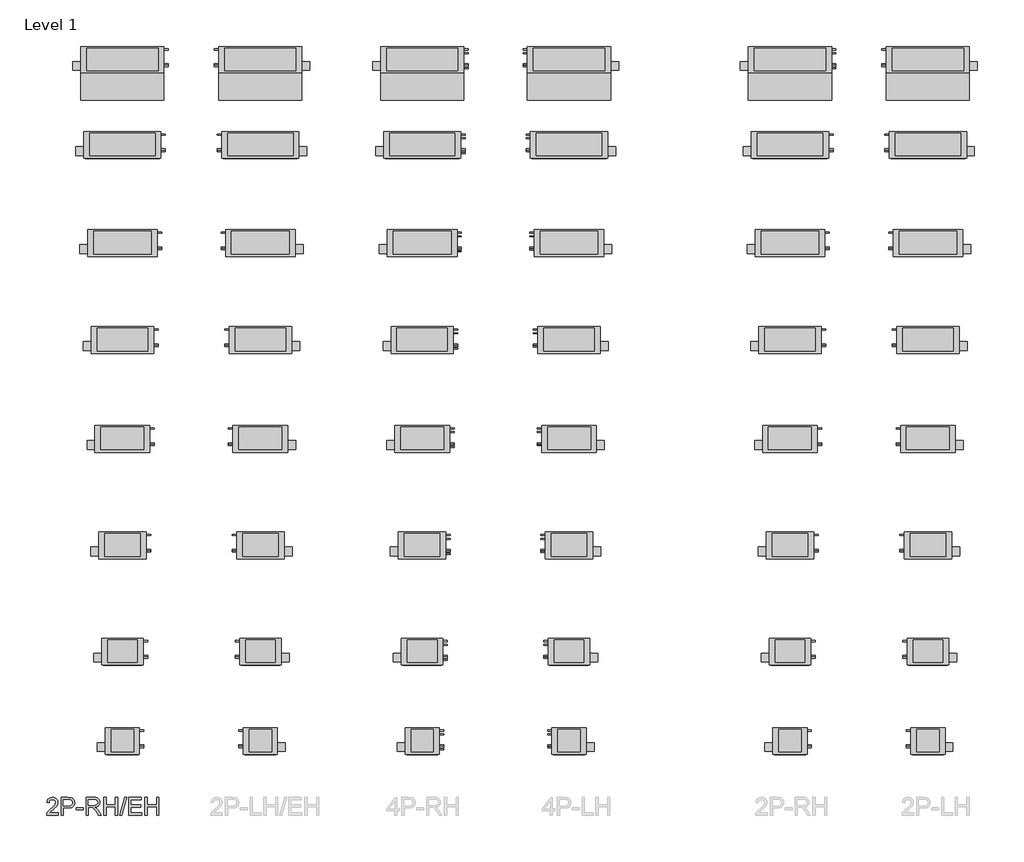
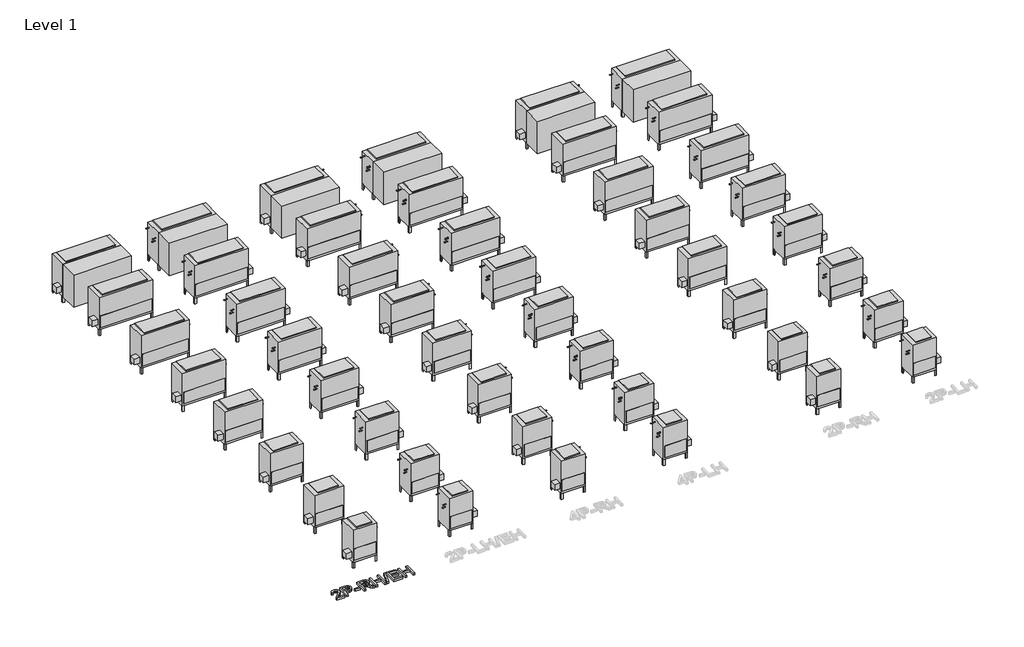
# One storey, part 1 of 2: 49 proxies.
"""IFC4 building model written with IfcOpenShell, lengths in millimetres."""

from ifc_helpers import new_model, si_unit, origin, origin_with_axes, place, context, project, spatial, polyline, outline, extrude, transform, mapped, element, save
from components import mechanical_equipment_1c3f9d2c, mechanical_equipment_e8f2433d, mechanical_equipment_6d55c416, mechanical_equipment_35031151, mechanical_equipment_93967929, mechanical_equipment_fce51667, mechanical_equipment_43bb50d7, mechanical_equipment_c5ebb9ed, mechanical_equipment_55d8b92a, mechanical_equipment_40b3ffb7, mechanical_equipment_580314c3, mechanical_equipment_f7157ef1, mechanical_equipment_43910603, mechanical_equipment_77015d4e, mechanical_equipment_1a85bbc4, mechanical_equipment_9d42d5b1, mechanical_equipment_6a2da01b, mechanical_equipment_de64c2ab, mechanical_equipment_23f30b28, mechanical_equipment_c005a9e1, mechanical_equipment_52866f31, mechanical_equipment_7676ee39, mechanical_equipment_11728c12, mechanical_equipment_4ca5ce02, mechanical_equipment_dd7bbd71, mechanical_equipment_e4368f68, mechanical_equipment_4e46873f, mechanical_equipment_3a64e9f5, mechanical_equipment_9b7b7e86, mechanical_equipment_b6b0d0cb, mechanical_equipment_683aed5f, mechanical_equipment_18172840

model = new_model("IFC4")

# Units and contexts
model_context = context("Model", 3, world=origin())
ifc_project = project(units=[si_unit("LENGTHUNIT", "METRE", prefix="MILLI")], contexts=[model_context])

# Site, building, storey
site = spatial("IfcSite", under=ifc_project)
building = spatial("IfcBuilding", under=site)
storey = spatial("IfcBuildingStorey", under=building, Name="Level 1", Elevation=0.0)

# Proxies
placement = place(None, origin())
mechanical_equipment_shape = mechanical_equipment_1c3f9d2c(model_context)
element("IfcBuildingElementProxy", 1, Name="Concealed_High_Capacity_Vertical_Fan_Coil_Unit_-_42DDA_-_CARRIER_-_2-Pipe_Cool_LH_2022 : Size 18 - 277v/60Hz/1Ph - 6 Row 12.0kW", ObjectType="Concealed_High_Capacity_Vertical_Fan_Coil_Unit_-_42DDA_-_CARRIER_-_2-Pipe_Cool_LH_2022 : Size 18 - 277v/60Hz/1Ph - 6 Row 12.0kW", at=placement, inside=storey, context=model_context, shape_type="MappedRepresentation", body=[
    mapped(mechanical_equipment_shape, transform((-10085.566512, 870.7442724, 0.0), x_axis=(1.0, 0.0, 0.0), y_axis=(0.0, 1.0, 0.0), z_axis=(0.0, 0.0, 1.0))),
])
mechanical_equipment_2_shape = mechanical_equipment_e8f2433d(model_context)
element("IfcBuildingElementProxy", 2, Name="Concealed_High_Capacity_Vertical_Fan_Coil_Unit_-_42DDA_-_CARRIER_-_2-Pipe_Cool_LH_2022 : Size 16 - 277v/60Hz/1Ph - 6 Row 12.0kW", ObjectType="Concealed_High_Capacity_Vertical_Fan_Coil_Unit_-_42DDA_-_CARRIER_-_2-Pipe_Cool_LH_2022 : Size 16 - 277v/60Hz/1Ph - 6 Row 12.0kW", at=placement, inside=storey, context=model_context, shape_type="MappedRepresentation", body=[
    mapped(mechanical_equipment_2_shape, transform((-10085.566512, -811.0930206, 0.0), x_axis=(1.0, 0.0, 0.0), y_axis=(0.0, 1.0, 0.0), z_axis=(0.0, 0.0, 1.0))),
])
mechanical_equipment_3_shape = mechanical_equipment_6d55c416(model_context)
element("IfcBuildingElementProxy", 3, Name="Concealed_High_Capacity_Vertical_Fan_Coil_Unit_-_42DDA_-_CARRIER_-_2-Pipe_Cool_LH_2022 : Size 14 - 277v/60Hz/1Ph - 6 Row 10.0kW", ObjectType="Concealed_High_Capacity_Vertical_Fan_Coil_Unit_-_42DDA_-_CARRIER_-_2-Pipe_Cool_LH_2022 : Size 14 - 277v/60Hz/1Ph - 6 Row 10.0kW", at=placement, inside=storey, context=model_context, shape_type="MappedRepresentation", body=[
    mapped(mechanical_equipment_3_shape, transform((-10085.566512, -2472.4201026, 0.0), x_axis=(1.0, 0.0, 0.0), y_axis=(0.0, 1.0, 0.0), z_axis=(0.0, 0.0, 1.0))),
])
mechanical_equipment_4_shape = mechanical_equipment_35031151(model_context)
element("IfcBuildingElementProxy", 4, Name="Concealed_High_Capacity_Vertical_Fan_Coil_Unit_-_42DDA_-_CARRIER_-_2-Pipe_Cool_LH_2022 : Size 12 - 277v/60Hz/1Ph - 6 Row 9.0kW", ObjectType="Concealed_High_Capacity_Vertical_Fan_Coil_Unit_-_42DDA_-_CARRIER_-_2-Pipe_Cool_LH_2022 : Size 12 - 277v/60Hz/1Ph - 6 Row 9.0kW", at=placement, inside=storey, context=model_context, shape_type="MappedRepresentation", body=[
    mapped(mechanical_equipment_4_shape, transform((-10085.566512, -4164.512501, 0.0), x_axis=(1.0, 0.0, 0.0), y_axis=(0.0, 1.0, 0.0), z_axis=(0.0, 0.0, 1.0))),
])
mechanical_equipment_5_shape = mechanical_equipment_93967929(model_context)
element("IfcBuildingElementProxy", 5, Name="Concealed_High_Capacity_Vertical_Fan_Coil_Unit_-_42DDA_-_CARRIER_-_2-Pipe_Cool_LH_2022 : Size 10 - 277v/60Hz/1Ph - 6 Row 7.0kW", ObjectType="Concealed_High_Capacity_Vertical_Fan_Coil_Unit_-_42DDA_-_CARRIER_-_2-Pipe_Cool_LH_2022 : Size 10 - 277v/60Hz/1Ph - 6 Row 7.0kW", at=placement, inside=storey, context=model_context, shape_type="MappedRepresentation", body=[
    mapped(mechanical_equipment_5_shape, transform((-10085.566512, -5991.5877247, 0.0), x_axis=(1.0, 0.0, 0.0), y_axis=(0.0, 1.0, 0.0), z_axis=(0.0, 0.0, 1.0))),
])
mechanical_equipment_6_shape = mechanical_equipment_fce51667(model_context)
element("IfcBuildingElementProxy", 6, Name="Concealed_High_Capacity_Vertical_Fan_Coil_Unit_-_42DDA_-_CARRIER_-_2-Pipe_Cool_LH_2022 : Size 08 - 277v/60Hz/1Ph - 6 Row 6.0kW", ObjectType="Concealed_High_Capacity_Vertical_Fan_Coil_Unit_-_42DDA_-_CARRIER_-_2-Pipe_Cool_LH_2022 : Size 08 - 277v/60Hz/1Ph - 6 Row 6.0kW", at=placement, inside=storey, context=model_context, shape_type="MappedRepresentation", body=[
    mapped(mechanical_equipment_6_shape, transform((-10085.566512, -7808.9462361, 0.0), x_axis=(1.0, 0.0, 0.0), y_axis=(0.0, 1.0, 0.0), z_axis=(0.0, 0.0, 1.0))),
])
mechanical_equipment_7_shape = mechanical_equipment_43bb50d7(model_context)
element("IfcBuildingElementProxy", 7, Name="Concealed_High_Capacity_Vertical_Fan_Coil_Unit_-_42DDA_-_CARRIER_-_2-Pipe_Cool_LH_2022 : Size 06 - 277v/60Hz/1Ph - 6 Row 4.0kW", ObjectType="Concealed_High_Capacity_Vertical_Fan_Coil_Unit_-_42DDA_-_CARRIER_-_2-Pipe_Cool_LH_2022 : Size 06 - 277v/60Hz/1Ph - 6 Row 4.0kW", at=placement, inside=storey, context=model_context, shape_type="MappedRepresentation", body=[
    mapped(mechanical_equipment_7_shape, transform((-10085.566512, -9341.4948315, 0.0), x_axis=(1.0, 0.0, 0.0), y_axis=(0.0, 1.0, 0.0), z_axis=(0.0, 0.0, 1.0))),
])
mechanical_equipment_8_shape = mechanical_equipment_c5ebb9ed(model_context)
element("IfcBuildingElementProxy", 8, Name="Concealed_High_Capacity_Vertical_Fan_Coil_Unit_-_42DDA_-_CARRIER_-_2-Pipe_Cool_RH_2022 : Size 18 - 277v/60Hz/1Ph - 6 Row 12.0kW", ObjectType="Concealed_High_Capacity_Vertical_Fan_Coil_Unit_-_42DDA_-_CARRIER_-_2-Pipe_Cool_RH_2022 : Size 18 - 277v/60Hz/1Ph - 6 Row 12.0kW", at=placement, inside=storey, context=model_context, shape_type="MappedRepresentation", body=[
    mapped(mechanical_equipment_8_shape, transform((-12447.766512, 870.7442724, 0.0), x_axis=(1.0, 0.0, 0.0), y_axis=(0.0, 1.0, 0.0), z_axis=(0.0, 0.0, 1.0))),
])
mechanical_equipment_9_shape = mechanical_equipment_55d8b92a(model_context)
element("IfcBuildingElementProxy", 9, Name="Concealed_High_Capacity_Vertical_Fan_Coil_Unit_-_42DDA_-_CARRIER_-_2-Pipe_Cool_RH_2022 : Size 16 - 277v/60Hz/1Ph - 6 Row 12.0kW", ObjectType="Concealed_High_Capacity_Vertical_Fan_Coil_Unit_-_42DDA_-_CARRIER_-_2-Pipe_Cool_RH_2022 : Size 16 - 277v/60Hz/1Ph - 6 Row 12.0kW", at=placement, inside=storey, context=model_context, shape_type="MappedRepresentation", body=[
    mapped(mechanical_equipment_9_shape, transform((-12447.766512, -811.0930206, 0.0), x_axis=(1.0, 0.0, 0.0), y_axis=(0.0, 1.0, 0.0), z_axis=(0.0, 0.0, 1.0))),
])
mechanical_equipment_10_shape = mechanical_equipment_40b3ffb7(model_context)
element("IfcBuildingElementProxy", 10, Name="Concealed_High_Capacity_Vertical_Fan_Coil_Unit_-_42DDA_-_CARRIER_-_2-Pipe_Cool_RH_2022 : Size 14 - 277v/60Hz/1Ph - 6 Row 10.0kW", ObjectType="Concealed_High_Capacity_Vertical_Fan_Coil_Unit_-_42DDA_-_CARRIER_-_2-Pipe_Cool_RH_2022 : Size 14 - 277v/60Hz/1Ph - 6 Row 10.0kW", at=placement, inside=storey, context=model_context, shape_type="MappedRepresentation", body=[
    mapped(mechanical_equipment_10_shape, transform((-12447.766512, -2472.4201026, 0.0), x_axis=(1.0, 0.0, 0.0), y_axis=(0.0, 1.0, 0.0), z_axis=(0.0, 0.0, 1.0))),
])
mechanical_equipment_11_shape = mechanical_equipment_580314c3(model_context)
element("IfcBuildingElementProxy", 11, Name="Concealed_High_Capacity_Vertical_Fan_Coil_Unit_-_42DDA_-_CARRIER_-_2-Pipe_Cool_RH_2022 : Size 12 - 277v/60Hz/1Ph - 6 Row 9.0kW", ObjectType="Concealed_High_Capacity_Vertical_Fan_Coil_Unit_-_42DDA_-_CARRIER_-_2-Pipe_Cool_RH_2022 : Size 12 - 277v/60Hz/1Ph - 6 Row 9.0kW", at=placement, inside=storey, context=model_context, shape_type="MappedRepresentation", body=[
    mapped(mechanical_equipment_11_shape, transform((-12447.766512, -4164.512501, 0.0), x_axis=(1.0, 0.0, 0.0), y_axis=(0.0, 1.0, 0.0), z_axis=(0.0, 0.0, 1.0))),
])
mechanical_equipment_12_shape = mechanical_equipment_f7157ef1(model_context)
element("IfcBuildingElementProxy", 12, Name="Concealed_High_Capacity_Vertical_Fan_Coil_Unit_-_42DDA_-_CARRIER_-_2-Pipe_Cool_RH_2022 : Size 10 - 277v/60Hz/1Ph - 6 Row 7.0kW", ObjectType="Concealed_High_Capacity_Vertical_Fan_Coil_Unit_-_42DDA_-_CARRIER_-_2-Pipe_Cool_RH_2022 : Size 10 - 277v/60Hz/1Ph - 6 Row 7.0kW", at=placement, inside=storey, context=model_context, shape_type="MappedRepresentation", body=[
    mapped(mechanical_equipment_12_shape, transform((-12447.766512, -5991.5877247, 0.0), x_axis=(1.0, 0.0, 0.0), y_axis=(0.0, 1.0, 0.0), z_axis=(0.0, 0.0, 1.0))),
])
mechanical_equipment_13_shape = mechanical_equipment_43910603(model_context)
element("IfcBuildingElementProxy", 13, Name="Concealed_High_Capacity_Vertical_Fan_Coil_Unit_-_42DDA_-_CARRIER_-_2-Pipe_Cool_RH_2022 : Size 08 - 277v/60Hz/1Ph - 6 Row 6.0kW", ObjectType="Concealed_High_Capacity_Vertical_Fan_Coil_Unit_-_42DDA_-_CARRIER_-_2-Pipe_Cool_RH_2022 : Size 08 - 277v/60Hz/1Ph - 6 Row 6.0kW", at=placement, inside=storey, context=model_context, shape_type="MappedRepresentation", body=[
    mapped(mechanical_equipment_13_shape, transform((-12447.766512, -7808.9462361, 0.0), x_axis=(1.0, 0.0, 0.0), y_axis=(0.0, 1.0, 0.0), z_axis=(0.0, 0.0, 1.0))),
])
mechanical_equipment_14_shape = mechanical_equipment_77015d4e(model_context)
element("IfcBuildingElementProxy", 14, Name="Concealed_High_Capacity_Vertical_Fan_Coil_Unit_-_42DDA_-_CARRIER_-_2-Pipe_Cool_RH_2022 : Size 06 - 277v/60Hz/1Ph - 6 Row 4.0kW", ObjectType="Concealed_High_Capacity_Vertical_Fan_Coil_Unit_-_42DDA_-_CARRIER_-_2-Pipe_Cool_RH_2022 : Size 06 - 277v/60Hz/1Ph - 6 Row 4.0kW", at=placement, inside=storey, context=model_context, shape_type="MappedRepresentation", body=[
    mapped(mechanical_equipment_14_shape, transform((-12447.766512, -9341.4948315, 0.0), x_axis=(1.0, 0.0, 0.0), y_axis=(0.0, 1.0, 0.0), z_axis=(0.0, 0.0, 1.0))),
])
mechanical_equipment_15_shape = mechanical_equipment_1a85bbc4(model_context)
element("IfcBuildingElementProxy", 15, Name="Concealed_High_Capacity_Vertical_Fan_Coil_Unit_-_42DDA_-_CARRIER_-_4-Pipe_LH_2022 : Size 18 - 277v/60Hz/1Ph - 4/2 Coil", ObjectType="Concealed_High_Capacity_Vertical_Fan_Coil_Unit_-_42DDA_-_CARRIER_-_4-Pipe_LH_2022 : Size 18 - 277v/60Hz/1Ph - 4/2 Coil", at=placement, inside=storey, context=model_context, shape_type="MappedRepresentation", body=[
    mapped(mechanical_equipment_15_shape, transform((-16231.0021227, 870.7442724, 0.0), x_axis=(1.0, 0.0, 0.0), y_axis=(0.0, 1.0, 0.0), z_axis=(0.0, 0.0, 1.0))),
])
mechanical_equipment_16_shape = mechanical_equipment_9d42d5b1(model_context)
element("IfcBuildingElementProxy", 16, Name="Concealed_High_Capacity_Vertical_Fan_Coil_Unit_-_42DDA_-_CARRIER_-_4-Pipe_LH_2022 : Size 16 - 277v/60Hz/1Ph - 4/2 Coil", ObjectType="Concealed_High_Capacity_Vertical_Fan_Coil_Unit_-_42DDA_-_CARRIER_-_4-Pipe_LH_2022 : Size 16 - 277v/60Hz/1Ph - 4/2 Coil", at=placement, inside=storey, context=model_context, shape_type="MappedRepresentation", body=[
    mapped(mechanical_equipment_16_shape, transform((-16231.0021227, -811.0930206, 0.0), x_axis=(1.0, 0.0, 0.0), y_axis=(0.0, 1.0, 0.0), z_axis=(0.0, 0.0, 1.0))),
])
mechanical_equipment_17_shape = mechanical_equipment_6a2da01b(model_context)
element("IfcBuildingElementProxy", 17, Name="Concealed_High_Capacity_Vertical_Fan_Coil_Unit_-_42DDA_-_CARRIER_-_4-Pipe_LH_2022 : Size 14 - 277v/60Hz/1Ph - 4/2 Coil", ObjectType="Concealed_High_Capacity_Vertical_Fan_Coil_Unit_-_42DDA_-_CARRIER_-_4-Pipe_LH_2022 : Size 14 - 277v/60Hz/1Ph - 4/2 Coil", at=placement, inside=storey, context=model_context, shape_type="MappedRepresentation", body=[
    mapped(mechanical_equipment_17_shape, transform((-16231.0021227, -2472.4201026, 0.0), x_axis=(1.0, 0.0, 0.0), y_axis=(0.0, 1.0, 0.0), z_axis=(0.0, 0.0, 1.0))),
])
mechanical_equipment_18_shape = mechanical_equipment_de64c2ab(model_context)
element("IfcBuildingElementProxy", 18, Name="Concealed_High_Capacity_Vertical_Fan_Coil_Unit_-_42DDA_-_CARRIER_-_4-Pipe_LH_2022 : Size 12 - 277v/60Hz/1Ph - 4/2 Coil", ObjectType="Concealed_High_Capacity_Vertical_Fan_Coil_Unit_-_42DDA_-_CARRIER_-_4-Pipe_LH_2022 : Size 12 - 277v/60Hz/1Ph - 4/2 Coil", at=placement, inside=storey, context=model_context, shape_type="MappedRepresentation", body=[
    mapped(mechanical_equipment_18_shape, transform((-16231.0021227, -4164.512501, 0.0), x_axis=(1.0, 0.0, 0.0), y_axis=(0.0, 1.0, 0.0), z_axis=(0.0, 0.0, 1.0))),
])
mechanical_equipment_19_shape = mechanical_equipment_23f30b28(model_context)
element("IfcBuildingElementProxy", 19, Name="Concealed_High_Capacity_Vertical_Fan_Coil_Unit_-_42DDA_-_CARRIER_-_4-Pipe_LH_2022 : Size 10 - 277v/60Hz/1Ph - 4/2 Coil", ObjectType="Concealed_High_Capacity_Vertical_Fan_Coil_Unit_-_42DDA_-_CARRIER_-_4-Pipe_LH_2022 : Size 10 - 277v/60Hz/1Ph - 4/2 Coil", at=placement, inside=storey, context=model_context, shape_type="MappedRepresentation", body=[
    mapped(mechanical_equipment_19_shape, transform((-16231.0021227, -5991.5877247, 0.0), x_axis=(1.0, 0.0, 0.0), y_axis=(0.0, 1.0, 0.0), z_axis=(0.0, 0.0, 1.0))),
])
mechanical_equipment_20_shape = mechanical_equipment_c005a9e1(model_context)
element("IfcBuildingElementProxy", 20, Name="Concealed_High_Capacity_Vertical_Fan_Coil_Unit_-_42DDA_-_CARRIER_-_4-Pipe_LH_2022 : Size 08 - 277v/60Hz/1Ph - 4/2 Coil", ObjectType="Concealed_High_Capacity_Vertical_Fan_Coil_Unit_-_42DDA_-_CARRIER_-_4-Pipe_LH_2022 : Size 08 - 277v/60Hz/1Ph - 4/2 Coil", at=placement, inside=storey, context=model_context, shape_type="MappedRepresentation", body=[
    mapped(mechanical_equipment_20_shape, transform((-16231.0021227, -7808.9462361, 0.0), x_axis=(1.0, 0.0, 0.0), y_axis=(0.0, 1.0, 0.0), z_axis=(0.0, 0.0, 1.0))),
])
mechanical_equipment_21_shape = mechanical_equipment_52866f31(model_context)
element("IfcBuildingElementProxy", 21, Name="Concealed_High_Capacity_Vertical_Fan_Coil_Unit_-_42DDA_-_CARRIER_-_4-Pipe_LH_2022 : Size 06 - 277v/60Hz/1Ph - 4/2 Coil", ObjectType="Concealed_High_Capacity_Vertical_Fan_Coil_Unit_-_42DDA_-_CARRIER_-_4-Pipe_LH_2022 : Size 06 - 277v/60Hz/1Ph - 4/2 Coil", at=placement, inside=storey, context=model_context, shape_type="MappedRepresentation", body=[
    mapped(mechanical_equipment_21_shape, transform((-16231.0021227, -9341.4948315, 0.0), x_axis=(1.0, 0.0, 0.0), y_axis=(0.0, 1.0, 0.0), z_axis=(0.0, 0.0, 1.0))),
])
mechanical_equipment_22_shape = mechanical_equipment_7676ee39(model_context)
element("IfcBuildingElementProxy", 22, Name="Concealed_High_Capacity_Vertical_Fan_Coil_Unit_-_42DDA_-_CARRIER_-_4-Pipe_RH_2022 : Size 18 - 277v/60Hz/1Ph - 4/2 Coil", ObjectType="Concealed_High_Capacity_Vertical_Fan_Coil_Unit_-_42DDA_-_CARRIER_-_4-Pipe_RH_2022 : Size 18 - 277v/60Hz/1Ph - 4/2 Coil", at=placement, inside=storey, context=model_context, shape_type="MappedRepresentation", body=[
    mapped(mechanical_equipment_22_shape, transform((-18745.6021227, 870.7442724, 0.0), x_axis=(1.0, 0.0, 0.0), y_axis=(0.0, 1.0, 0.0), z_axis=(0.0, 0.0, 1.0))),
])
mechanical_equipment_23_shape = mechanical_equipment_11728c12(model_context)
element("IfcBuildingElementProxy", 23, Name="Concealed_High_Capacity_Vertical_Fan_Coil_Unit_-_42DDA_-_CARRIER_-_4-Pipe_RH_2022 : Size 16 - 277v/60Hz/1Ph - 4/2 Coil", ObjectType="Concealed_High_Capacity_Vertical_Fan_Coil_Unit_-_42DDA_-_CARRIER_-_4-Pipe_RH_2022 : Size 16 - 277v/60Hz/1Ph - 4/2 Coil", at=placement, inside=storey, context=model_context, shape_type="MappedRepresentation", body=[
    mapped(mechanical_equipment_23_shape, transform((-18745.6021227, -811.0930206, 0.0), x_axis=(1.0, 0.0, 0.0), y_axis=(0.0, 1.0, 0.0), z_axis=(0.0, 0.0, 1.0))),
])
mechanical_equipment_24_shape = mechanical_equipment_4ca5ce02(model_context)
element("IfcBuildingElementProxy", 24, Name="Concealed_High_Capacity_Vertical_Fan_Coil_Unit_-_42DDA_-_CARRIER_-_4-Pipe_RH_2022 : Size 14 - 277v/60Hz/1Ph - 4/2 Coil", ObjectType="Concealed_High_Capacity_Vertical_Fan_Coil_Unit_-_42DDA_-_CARRIER_-_4-Pipe_RH_2022 : Size 14 - 277v/60Hz/1Ph - 4/2 Coil", at=placement, inside=storey, context=model_context, shape_type="MappedRepresentation", body=[
    mapped(mechanical_equipment_24_shape, transform((-18745.6021227, -2472.4201026, 0.0), x_axis=(1.0, 0.0, 0.0), y_axis=(0.0, 1.0, 0.0), z_axis=(0.0, 0.0, 1.0))),
])
mechanical_equipment_25_shape = mechanical_equipment_dd7bbd71(model_context)
element("IfcBuildingElementProxy", 25, Name="Concealed_High_Capacity_Vertical_Fan_Coil_Unit_-_42DDA_-_CARRIER_-_4-Pipe_RH_2022 : Size 12 - 277v/60Hz/1Ph - 4/2 Coil", ObjectType="Concealed_High_Capacity_Vertical_Fan_Coil_Unit_-_42DDA_-_CARRIER_-_4-Pipe_RH_2022 : Size 12 - 277v/60Hz/1Ph - 4/2 Coil", at=placement, inside=storey, context=model_context, shape_type="MappedRepresentation", body=[
    mapped(mechanical_equipment_25_shape, transform((-18745.6021227, -4164.512501, 0.0), x_axis=(1.0, 0.0, 0.0), y_axis=(0.0, 1.0, 0.0), z_axis=(0.0, 0.0, 1.0))),
])
mechanical_equipment_26_shape = mechanical_equipment_e4368f68(model_context)
element("IfcBuildingElementProxy", 26, Name="Concealed_High_Capacity_Vertical_Fan_Coil_Unit_-_42DDA_-_CARRIER_-_4-Pipe_RH_2022 : Size 10 - 277v/60Hz/1Ph - 4/2 Coil", ObjectType="Concealed_High_Capacity_Vertical_Fan_Coil_Unit_-_42DDA_-_CARRIER_-_4-Pipe_RH_2022 : Size 10 - 277v/60Hz/1Ph - 4/2 Coil", at=placement, inside=storey, context=model_context, shape_type="MappedRepresentation", body=[
    mapped(mechanical_equipment_26_shape, transform((-18745.6021227, -5991.5877247, 0.0), x_axis=(1.0, 0.0, 0.0), y_axis=(0.0, 1.0, 0.0), z_axis=(0.0, 0.0, 1.0))),
])
mechanical_equipment_27_shape = mechanical_equipment_4e46873f(model_context)
element("IfcBuildingElementProxy", 27, Name="Concealed_High_Capacity_Vertical_Fan_Coil_Unit_-_42DDA_-_CARRIER_-_4-Pipe_RH_2022 : Size 08 - 277v/60Hz/1Ph - 4/2 Coil", ObjectType="Concealed_High_Capacity_Vertical_Fan_Coil_Unit_-_42DDA_-_CARRIER_-_4-Pipe_RH_2022 : Size 08 - 277v/60Hz/1Ph - 4/2 Coil", at=placement, inside=storey, context=model_context, shape_type="MappedRepresentation", body=[
    mapped(mechanical_equipment_27_shape, transform((-18745.6021227, -7808.9462361, 0.0), x_axis=(1.0, 0.0, 0.0), y_axis=(0.0, 1.0, 0.0), z_axis=(0.0, 0.0, 1.0))),
])
mechanical_equipment_28_shape = mechanical_equipment_3a64e9f5(model_context)
element("IfcBuildingElementProxy", 28, Name="Concealed_High_Capacity_Vertical_Fan_Coil_Unit_-_42DDA_-_CARRIER_-_4-Pipe_RH_2022 : Size 06 - 277v/60Hz/1Ph - 4/2 Coil", ObjectType="Concealed_High_Capacity_Vertical_Fan_Coil_Unit_-_42DDA_-_CARRIER_-_4-Pipe_RH_2022 : Size 06 - 277v/60Hz/1Ph - 4/2 Coil", at=placement, inside=storey, context=model_context, shape_type="MappedRepresentation", body=[
    mapped(mechanical_equipment_28_shape, transform((-18745.6021227, -9341.4948315, 0.0), x_axis=(1.0, 0.0, 0.0), y_axis=(0.0, 1.0, 0.0), z_axis=(0.0, 0.0, 1.0))),
])
mechanical_equipment_29_shape = mechanical_equipment_9b7b7e86(model_context)
element("IfcBuildingElementProxy", 29, Name="Concealed_High_Capacity_Vertical_Fan_Coil_Unit_-_42DDA_-_CARRIER_-_2-Pipe_Cool-EHeat_RH_2022 : Size 20 - 277v/60Hz/1Ph - 6 Row 14.0kW", ObjectType="Concealed_High_Capacity_Vertical_Fan_Coil_Unit_-_42DDA_-_CARRIER_-_2-Pipe_Cool-EHeat_RH_2022 : Size 20 - 277v/60Hz/1Ph - 6 Row 14.0kW", at=placement, inside=storey, context=model_context, shape_type="MappedRepresentation", body=[
    mapped(mechanical_equipment_29_shape, transform((-23877.766512, 2326.9692455, 0.0), x_axis=(1.0, 0.0, 0.0), y_axis=(0.0, 1.0, 0.0), z_axis=(0.0, 0.0, 1.0))),
])
mechanical_equipment_30_shape = mechanical_equipment_b6b0d0cb(model_context)
element("IfcBuildingElementProxy", 30, Name="Concealed_High_Capacity_Vertical_Fan_Coil_Unit_-_42DDA_-_CARRIER_-_4-Pipe_RH_2022 : Size 20 - 277v/60Hz/1Ph - 4/2 Coil", ObjectType="Concealed_High_Capacity_Vertical_Fan_Coil_Unit_-_42DDA_-_CARRIER_-_4-Pipe_RH_2022 : Size 20 - 277v/60Hz/1Ph - 4/2 Coil", at=placement, inside=storey, context=model_context, shape_type="MappedRepresentation", body=[
    mapped(mechanical_equipment_30_shape, transform((-18745.6021227, 2326.9692455, 0.0), x_axis=(1.0, 0.0, 0.0), y_axis=(0.0, 1.0, 0.0), z_axis=(0.0, 0.0, 1.0))),
])
element("IfcBuildingElementProxy", 31, Name="Concealed_High_Capacity_Vertical_Fan_Coil_Unit_-_42DDA_-_CARRIER_-_4-Pipe_RH_2022 : Size 20 - 277v/60Hz/1Ph - 4/2 Coil", ObjectType="Concealed_High_Capacity_Vertical_Fan_Coil_Unit_-_42DDA_-_CARRIER_-_4-Pipe_RH_2022 : Size 20 - 277v/60Hz/1Ph - 4/2 Coil", at=placement, inside=storey, context=model_context, shape_type="MappedRepresentation", body=[
    mapped(mechanical_equipment_30_shape, transform((-12447.766512, 2326.9692455, 0.0), x_axis=(1.0, 0.0, 0.0), y_axis=(0.0, 1.0, 0.0), z_axis=(0.0, 0.0, 1.0))),
])
mechanical_equipment_31_shape = mechanical_equipment_683aed5f(model_context)
element("IfcBuildingElementProxy", 32, Name="Concealed_High_Capacity_Vertical_Fan_Coil_Unit_-_42DDA_-_CARRIER_-_2-Pipe_Cool-EHeat_LH_2022 : Size 20 - 277v/60Hz/1Ph - 6 Row 14.0kW", ObjectType="Concealed_High_Capacity_Vertical_Fan_Coil_Unit_-_42DDA_-_CARRIER_-_2-Pipe_Cool-EHeat_LH_2022 : Size 20 - 277v/60Hz/1Ph - 6 Row 14.0kW", at=placement, inside=storey, context=model_context, shape_type="MappedRepresentation", body=[
    mapped(mechanical_equipment_31_shape, transform((-21515.566512, 2326.9692455, 0.0), x_axis=(1.0, 0.0, 0.0), y_axis=(0.0, 1.0, 0.0), z_axis=(0.0, 0.0, 1.0))),
])
mechanical_equipment_32_shape = mechanical_equipment_18172840(model_context)
element("IfcBuildingElementProxy", 33, Name="Concealed_High_Capacity_Vertical_Fan_Coil_Unit_-_42DDA_-_CARRIER_-_4-Pipe_LH_2022 : Size 20 - 277v/60Hz/1Ph - 4/2 Coil", ObjectType="Concealed_High_Capacity_Vertical_Fan_Coil_Unit_-_42DDA_-_CARRIER_-_4-Pipe_LH_2022 : Size 20 - 277v/60Hz/1Ph - 4/2 Coil", at=placement, inside=storey, context=model_context, shape_type="MappedRepresentation", body=[
    mapped(mechanical_equipment_32_shape, transform((-16231.0021227, 2326.9692455, 0.0), x_axis=(1.0, 0.0, 0.0), y_axis=(0.0, 1.0, 0.0), z_axis=(0.0, 0.0, 1.0))),
])
element("IfcBuildingElementProxy", 34, Name="Concealed_High_Capacity_Vertical_Fan_Coil_Unit_-_42DDA_-_CARRIER_-_2-Pipe_Cool_LH_2022 : Size 20 - 277v/60Hz/1Ph - 6 Row 14.0kW", ObjectType="Concealed_High_Capacity_Vertical_Fan_Coil_Unit_-_42DDA_-_CARRIER_-_2-Pipe_Cool_LH_2022 : Size 20 - 277v/60Hz/1Ph - 6 Row 14.0kW", at=placement, inside=storey, context=model_context, shape_type="MappedRepresentation", body=[
    mapped(mechanical_equipment_31_shape, transform((-10085.566512, 2326.9692455, 0.0), x_axis=(1.0, 0.0, 0.0), y_axis=(0.0, 1.0, 0.0), z_axis=(0.0, 0.0, 1.0))),
])
element("IfcBuildingElementProxy", 35, Name="Concealed_High_Capacity_Vertical_Fan_Coil_Unit_-_42DDA_-_CARRIER_-_2-Pipe_Cool-EHeat_LH_2022 : Size 18 - 277v/60Hz/1Ph - 6 Row 12.0kW", ObjectType="Concealed_High_Capacity_Vertical_Fan_Coil_Unit_-_42DDA_-_CARRIER_-_2-Pipe_Cool-EHeat_LH_2022 : Size 18 - 277v/60Hz/1Ph - 6 Row 12.0kW", at=placement, inside=storey, context=model_context, shape_type="MappedRepresentation", body=[
    mapped(mechanical_equipment_shape, transform((-21515.566512, 870.7442724, 0.0), x_axis=(1.0, 0.0, 0.0), y_axis=(0.0, 1.0, 0.0), z_axis=(0.0, 0.0, 1.0))),
])
element("IfcBuildingElementProxy", 36, Name="Concealed_High_Capacity_Vertical_Fan_Coil_Unit_-_42DDA_-_CARRIER_-_2-Pipe_Cool-EHeat_LH_2022 : Size 16 - 277v/60Hz/1Ph - 6 Row 12.0kW", ObjectType="Concealed_High_Capacity_Vertical_Fan_Coil_Unit_-_42DDA_-_CARRIER_-_2-Pipe_Cool-EHeat_LH_2022 : Size 16 - 277v/60Hz/1Ph - 6 Row 12.0kW", at=placement, inside=storey, context=model_context, shape_type="MappedRepresentation", body=[
    mapped(mechanical_equipment_2_shape, transform((-21515.566512, -811.0930206, 0.0), x_axis=(1.0, 0.0, 0.0), y_axis=(0.0, 1.0, 0.0), z_axis=(0.0, 0.0, 1.0))),
])
element("IfcBuildingElementProxy", 37, Name="Concealed_High_Capacity_Vertical_Fan_Coil_Unit_-_42DDA_-_CARRIER_-_2-Pipe_Cool-EHeat_LH_2022 : Size 14 - 277v/60Hz/1Ph - 6 Row 10.0kW", ObjectType="Concealed_High_Capacity_Vertical_Fan_Coil_Unit_-_42DDA_-_CARRIER_-_2-Pipe_Cool-EHeat_LH_2022 : Size 14 - 277v/60Hz/1Ph - 6 Row 10.0kW", at=placement, inside=storey, context=model_context, shape_type="MappedRepresentation", body=[
    mapped(mechanical_equipment_3_shape, transform((-21515.566512, -2472.4201026, 0.0), x_axis=(1.0, 0.0, 0.0), y_axis=(0.0, 1.0, 0.0), z_axis=(0.0, 0.0, 1.0))),
])
element("IfcBuildingElementProxy", 38, Name="Concealed_High_Capacity_Vertical_Fan_Coil_Unit_-_42DDA_-_CARRIER_-_2-Pipe_Cool-EHeat_LH_2022 : Size 12 - 277v/60Hz/1Ph - 6 Row 9.0kW", ObjectType="Concealed_High_Capacity_Vertical_Fan_Coil_Unit_-_42DDA_-_CARRIER_-_2-Pipe_Cool-EHeat_LH_2022 : Size 12 - 277v/60Hz/1Ph - 6 Row 9.0kW", at=placement, inside=storey, context=model_context, shape_type="MappedRepresentation", body=[
    mapped(mechanical_equipment_4_shape, transform((-21515.566512, -4164.512501, 0.0), x_axis=(1.0, 0.0, 0.0), y_axis=(0.0, 1.0, 0.0), z_axis=(0.0, 0.0, 1.0))),
])
element("IfcBuildingElementProxy", 39, Name="Concealed_High_Capacity_Vertical_Fan_Coil_Unit_-_42DDA_-_CARRIER_-_2-Pipe_Cool-EHeat_LH_2022 : Size 10 - 277v/60Hz/1Ph - 6 Row 7.0kW", ObjectType="Concealed_High_Capacity_Vertical_Fan_Coil_Unit_-_42DDA_-_CARRIER_-_2-Pipe_Cool-EHeat_LH_2022 : Size 10 - 277v/60Hz/1Ph - 6 Row 7.0kW", at=placement, inside=storey, context=model_context, shape_type="MappedRepresentation", body=[
    mapped(mechanical_equipment_5_shape, transform((-21515.566512, -5991.5877247, 0.0), x_axis=(1.0, 0.0, 0.0), y_axis=(0.0, 1.0, 0.0), z_axis=(0.0, 0.0, 1.0))),
])
element("IfcBuildingElementProxy", 40, Name="Concealed_High_Capacity_Vertical_Fan_Coil_Unit_-_42DDA_-_CARRIER_-_2-Pipe_Cool-EHeat_LH_2022 : Size 08 - 277v/60Hz/1Ph - 6 Row 6.0kW", ObjectType="Concealed_High_Capacity_Vertical_Fan_Coil_Unit_-_42DDA_-_CARRIER_-_2-Pipe_Cool-EHeat_LH_2022 : Size 08 - 277v/60Hz/1Ph - 6 Row 6.0kW", at=placement, inside=storey, context=model_context, shape_type="MappedRepresentation", body=[
    mapped(mechanical_equipment_6_shape, transform((-21515.566512, -7808.9462361, 0.0), x_axis=(1.0, 0.0, 0.0), y_axis=(0.0, 1.0, 0.0), z_axis=(0.0, 0.0, 1.0))),
])
element("IfcBuildingElementProxy", 41, Name="Concealed_High_Capacity_Vertical_Fan_Coil_Unit_-_42DDA_-_CARRIER_-_2-Pipe_Cool-EHeat_LH_2022 : Size 06 - 277v/60Hz/1Ph - 6 Row 4.0kW", ObjectType="Concealed_High_Capacity_Vertical_Fan_Coil_Unit_-_42DDA_-_CARRIER_-_2-Pipe_Cool-EHeat_LH_2022 : Size 06 - 277v/60Hz/1Ph - 6 Row 4.0kW", at=placement, inside=storey, context=model_context, shape_type="MappedRepresentation", body=[
    mapped(mechanical_equipment_7_shape, transform((-21515.566512, -9341.4948315, 0.0), x_axis=(1.0, 0.0, 0.0), y_axis=(0.0, 1.0, 0.0), z_axis=(0.0, 0.0, 1.0))),
])
element("IfcBuildingElementProxy", 42, Name="Concealed_High_Capacity_Vertical_Fan_Coil_Unit_-_42DDA_-_CARRIER_-_2-Pipe_Cool-EHeat_RH_2022 : Size 18 - 277v/60Hz/1Ph - 6 Row 12.0kW", ObjectType="Concealed_High_Capacity_Vertical_Fan_Coil_Unit_-_42DDA_-_CARRIER_-_2-Pipe_Cool-EHeat_RH_2022 : Size 18 - 277v/60Hz/1Ph - 6 Row 12.0kW", at=placement, inside=storey, context=model_context, shape_type="MappedRepresentation", body=[
    mapped(mechanical_equipment_8_shape, transform((-23877.766512, 870.7442724, 0.0), x_axis=(1.0, 0.0, 0.0), y_axis=(0.0, 1.0, 0.0), z_axis=(0.0, 0.0, 1.0))),
])
element("IfcBuildingElementProxy", 43, Name="Concealed_High_Capacity_Vertical_Fan_Coil_Unit_-_42DDA_-_CARRIER_-_2-Pipe_Cool-EHeat_RH_2022 : Size 16 - 277v/60Hz/1Ph - 6 Row 12.0kW", ObjectType="Concealed_High_Capacity_Vertical_Fan_Coil_Unit_-_42DDA_-_CARRIER_-_2-Pipe_Cool-EHeat_RH_2022 : Size 16 - 277v/60Hz/1Ph - 6 Row 12.0kW", at=placement, inside=storey, context=model_context, shape_type="MappedRepresentation", body=[
    mapped(mechanical_equipment_9_shape, transform((-23877.766512, -811.0930206, 0.0), x_axis=(1.0, 0.0, 0.0), y_axis=(0.0, 1.0, 0.0), z_axis=(0.0, 0.0, 1.0))),
])
element("IfcBuildingElementProxy", 44, Name="Concealed_High_Capacity_Vertical_Fan_Coil_Unit_-_42DDA_-_CARRIER_-_2-Pipe_Cool-EHeat_RH_2022 : Size 14 - 277v/60Hz/1Ph - 6 Row 10.0kW", ObjectType="Concealed_High_Capacity_Vertical_Fan_Coil_Unit_-_42DDA_-_CARRIER_-_2-Pipe_Cool-EHeat_RH_2022 : Size 14 - 277v/60Hz/1Ph - 6 Row 10.0kW", at=placement, inside=storey, context=model_context, shape_type="MappedRepresentation", body=[
    mapped(mechanical_equipment_10_shape, transform((-23877.766512, -2472.4201026, 0.0), x_axis=(1.0, 0.0, 0.0), y_axis=(0.0, 1.0, 0.0), z_axis=(0.0, 0.0, 1.0))),
])
element("IfcBuildingElementProxy", 45, Name="Concealed_High_Capacity_Vertical_Fan_Coil_Unit_-_42DDA_-_CARRIER_-_2-Pipe_Cool-EHeat_RH_2022 : Size 12 - 277v/60Hz/1Ph - 6 Row 9.0kW", ObjectType="Concealed_High_Capacity_Vertical_Fan_Coil_Unit_-_42DDA_-_CARRIER_-_2-Pipe_Cool-EHeat_RH_2022 : Size 12 - 277v/60Hz/1Ph - 6 Row 9.0kW", at=placement, inside=storey, context=model_context, shape_type="MappedRepresentation", body=[
    mapped(mechanical_equipment_11_shape, transform((-23877.766512, -4164.512501, 0.0), x_axis=(1.0, 0.0, 0.0), y_axis=(0.0, 1.0, 0.0), z_axis=(0.0, 0.0, 1.0))),
])
element("IfcBuildingElementProxy", 46, Name="Concealed_High_Capacity_Vertical_Fan_Coil_Unit_-_42DDA_-_CARRIER_-_2-Pipe_Cool-EHeat_RH_2022 : Size 10 - 277v/60Hz/1Ph - 6 Row 7.0kW", ObjectType="Concealed_High_Capacity_Vertical_Fan_Coil_Unit_-_42DDA_-_CARRIER_-_2-Pipe_Cool-EHeat_RH_2022 : Size 10 - 277v/60Hz/1Ph - 6 Row 7.0kW", at=placement, inside=storey, context=model_context, shape_type="MappedRepresentation", body=[
    mapped(mechanical_equipment_12_shape, transform((-23877.766512, -5991.5877247, 0.0), x_axis=(1.0, 0.0, 0.0), y_axis=(0.0, 1.0, 0.0), z_axis=(0.0, 0.0, 1.0))),
])
element("IfcBuildingElementProxy", 47, Name="Concealed_High_Capacity_Vertical_Fan_Coil_Unit_-_42DDA_-_CARRIER_-_2-Pipe_Cool-EHeat_RH_2022 : Size 08 - 277v/60Hz/1Ph - 6 Row 6.0kW", ObjectType="Concealed_High_Capacity_Vertical_Fan_Coil_Unit_-_42DDA_-_CARRIER_-_2-Pipe_Cool-EHeat_RH_2022 : Size 08 - 277v/60Hz/1Ph - 6 Row 6.0kW", at=placement, inside=storey, context=model_context, shape_type="MappedRepresentation", body=[
    mapped(mechanical_equipment_13_shape, transform((-23877.766512, -7808.9462361, 0.0), x_axis=(1.0, 0.0, 0.0), y_axis=(0.0, 1.0, 0.0), z_axis=(0.0, 0.0, 1.0))),
])
element("IfcBuildingElementProxy", 48, Name="Concealed_High_Capacity_Vertical_Fan_Coil_Unit_-_42DDA_-_CARRIER_-_2-Pipe_Cool-EHeat_RH_2022 : Size 06 - 277v/60Hz/1Ph - 6 Row 4.0kW", ObjectType="Concealed_High_Capacity_Vertical_Fan_Coil_Unit_-_42DDA_-_CARRIER_-_2-Pipe_Cool-EHeat_RH_2022 : Size 06 - 277v/60Hz/1Ph - 6 Row 4.0kW", at=placement, inside=storey, context=model_context, shape_type="MappedRepresentation", body=[
    mapped(mechanical_equipment_14_shape, transform((-23877.766512, -9341.4948315, 0.0), x_axis=(1.0, 0.0, 0.0), y_axis=(0.0, 1.0, 0.0), z_axis=(0.0, 0.0, 1.0))),
])
element("IfcBuildingElementProxy", 49, Name="24\" Arial", ObjectType="24\" Arial", at=placement, inside=storey, context=model_context, shape_type="SweptSolid", body=[
    extrude(outline(polyline([(-24824.7732104, -10811.5794629), (-24824.7732104, -10849.6503497), (-25024.6453659, -10849.6503497), (-25020.5557199, -10823.4022578), (-25011.1681233, -10802.8889651), (-24997.4306304, -10782.9891192), (-24977.5586685, -10762.1598084), (-24949.7676648, -10738.8581206), (-24908.6853114, -10702.3673244), (-24884.0358994, -10675.4314284), (-24871.7111934, -10653.5704114), (-24867.602958, -10632.304252), (-24871.4788271, -10613.2409247), (-24883.1064344, -10597.3935463), (-24900.9800465, -10586.7139933), (-24923.5939301, -10583.1541424), (-24947.3417611, -10586.6303415), (-24965.7916415, -10597.0589389), (-24977.6980883, -10613.6220053), (-24981.8156183, -10635.5016116), (-25019.886505, -10630.7427508), (-25016.6124646, -10611.0892132), (-25010.6569175, -10593.9173472), (-25002.0198639, -10579.2271527), (-24990.7013038, -10567.0186298), (-24976.9614873, -10557.4219036), (-24961.0606646, -10550.5670991), (-24922.7760009, -10545.0832556), (-24902.3719203, -10546.6075782), (-24884.2124977, -10551.1805461), (-24868.2977331, -10558.8021591), (-24854.6276265, -10569.4724174), (-24843.6483211, -10582.4012757), (-24835.8059601, -10596.7986887), (-24831.1005435, -10612.6646564), (-24829.5320713, -10629.9991788), (-24831.2236976, -10648.2073983), (-24836.2985765, -10666.0995997), (-24845.3050925, -10684.2985246), (-24858.7916297, -10703.4269145), (-24880.2901554, -10726.2638698), (-24913.3326364, -10755.5884908), (-24957.1290277, -10792.2094121), (-24974.305541, -10811.5794629), (-24824.7732104, -10811.5794629)])), origin_with_axes(), (0.0, 0.0, 1.0), 50.8),
    extrude(outline(polyline([(-24772.4257411, -10849.6503497), (-24772.4257411, -10545.0832556), (-24659.5515105, -10545.0832556), (-24614.0449036, -10547.9831864), (-24593.7546825, -10553.4019674), (-24577.0521963, -10562.2225904), (-24563.6028376, -10574.8447252), (-24553.0719991, -10591.6680418), (-24546.2683152, -10611.5121198), (-24544.0004206, -10633.1965384), (-24545.5317142, -10651.8927271), (-24550.125595, -10669.0924771), (-24557.782063, -10684.7957884), (-24568.5011182, -10699.002661), (-24583.2168729, -10710.7789827), (-24602.8634396, -10719.190641), (-24627.4408181, -10724.237636), (-24656.9490084, -10725.9199677), (-24734.3548544, -10725.9199677), (-24734.3548544, -10849.6503497), (-24772.4257411, -10849.6503497)]), holes=[polyline([(-24734.3548544, -10687.8490809), (-24654.7182924, -10687.8490809), (-24620.9601233, -10684.3542925), (-24598.6529631, -10673.8699272), (-24586.2167213, -10657.0466106), (-24582.0713073, -10634.534968), (-24584.5158003, -10617.4328119), (-24591.8492792, -10603.0075149), (-24603.1608684, -10592.1513636), (-24617.5396921, -10585.7566444), (-24655.6105788, -10583.1541424), (-24734.3548544, -10583.1541424), (-24734.3548544, -10687.8490809)])]), origin_with_axes(), (0.0, 0.0, 1.0), 50.8),
    extrude(outline(polyline([(-24515.4472555, -10759.2319936), (-24515.4472555, -10721.1611069), (-24396.4757344, -10721.1611069), (-24396.4757344, -10759.2319936), (-24515.4472555, -10759.2319936)])), origin_with_axes(), (0.0, 0.0, 1.0), 50.8),
    extrude(outline(polyline([(-24348.8871259, -10849.6503497), (-24348.8871259, -10545.0832556), (-24217.6466667, -10545.0832556), (-24182.3734696, -10547.1373733), (-24156.7109407, -10553.2997263), (-24137.9543368, -10564.676378), (-24123.3989148, -10582.3733917), (-24114.0577915, -10604.3180606), (-24110.9440837, -10628.4376776), (-24116.1026145, -10658.4408081), (-24131.5782069, -10683.3132917), (-24143.3010843, -10693.4491076), (-24157.8355934, -10701.5493952), (-24195.3395065, -10711.6433852), (-24173.7015611, -10727.9276121), (-24142.8433228, -10767.1138569), (-24092.0573547, -10849.6503497), (-24136.2998891, -10849.6503497), (-24175.9322771, -10786.5210863), (-24204.5597994, -10744.7323395), (-24224.6734222, -10724.9905027), (-24242.7794005, -10717.7406756), (-24264.8634891, -10716.402246), (-24310.8162392, -10716.402246), (-24310.8162392, -10849.6503497), (-24348.8871259, -10849.6503497)]), holes=[polyline([(-24310.8162392, -10678.3313593), (-24225.6028872, -10678.3313593), (-24201.1300735, -10676.983635), (-24182.1411034, -10672.9404622), (-24167.8459315, -10665.932296), (-24157.4545127, -10655.6895916), (-24151.124856, -10643.2998231), (-24149.0149704, -10629.8504644), (-24153.0395539, -10611.2797535), (-24165.1133044, -10596.3153669), (-24185.8868473, -10586.4444485), (-24216.0108083, -10583.1541424), (-24310.8162392, -10583.1541424), (-24310.8162392, -10678.3313593)])]), origin_with_axes(), (0.0, 0.0, 1.0), 50.8),
    extrude(outline(polyline([(-24044.3200319, -10849.6503497), (-24044.3200319, -10545.0832556), (-24006.2491451, -10545.0832556), (-24006.2491451, -10668.8136376), (-23844.4478764, -10668.8136376), (-23844.4478764, -10545.0832556), (-23806.3769896, -10545.0832556), (-23806.3769896, -10849.6503497), (-23844.4478764, -10849.6503497), (-23844.4478764, -10706.8845243), (-24006.2491451, -10706.8845243), (-24006.2491451, -10849.6503497), (-24044.3200319, -10849.6503497)])), origin_with_axes(), (0.0, 0.0, 1.0), 50.8),
    extrude(outline(polyline([(-23773.0649637, -10849.6503497), (-23687.4054685, -10545.0832556), (-23653.0524418, -10545.0832556), (-23738.711937, -10849.6503497), (-23773.0649637, -10849.6503497)])), origin_with_axes(), (0.0, 0.0, 1.0), 50.8),
    extrude(outline(polyline([(-23620.7814167, -10849.6503497), (-23620.7814167, -10545.0832556), (-23401.8738178, -10545.0832556), (-23401.8738178, -10583.1541424), (-23582.7105299, -10583.1541424), (-23582.7105299, -10673.5724984), (-23411.3915395, -10673.5724984), (-23411.3915395, -10711.6433852), (-23582.7105299, -10711.6433852), (-23582.7105299, -10811.5794629), (-23397.114957, -10811.5794629), (-23397.114957, -10849.6503497), (-23620.7814167, -10849.6503497)])), origin_with_axes(), (0.0, 0.0, 1.0), 50.8),
    extrude(outline(polyline([(-23340.0086268, -10849.6503497), (-23340.0086268, -10545.0832556), (-23301.9377401, -10545.0832556), (-23301.9377401, -10668.8136376), (-23140.1364713, -10668.8136376), (-23140.1364713, -10545.0832556), (-23102.0655846, -10545.0832556), (-23102.0655846, -10849.6503497), (-23140.1364713, -10849.6503497), (-23140.1364713, -10706.8845243), (-23301.9377401, -10706.8845243), (-23301.9377401, -10849.6503497), (-23340.0086268, -10849.6503497)])), origin_with_axes(), (0.0, 0.0, 1.0), 50.8),
])

save(model, "model.ifc")
